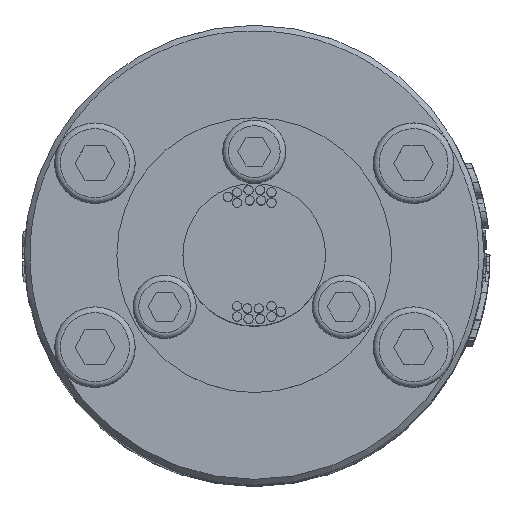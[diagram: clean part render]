
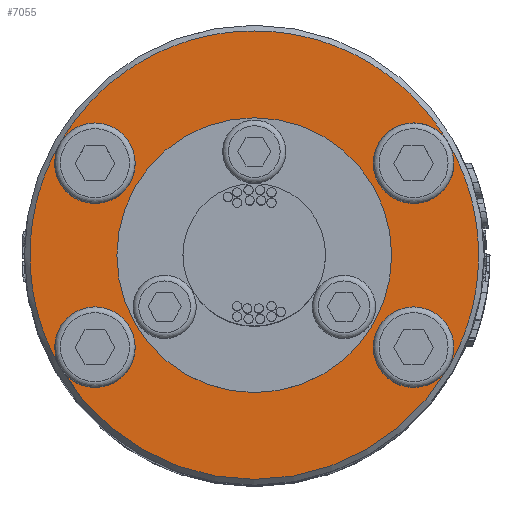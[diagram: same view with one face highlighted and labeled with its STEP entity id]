
A CAD part, top view. The second image highlights one B-rep face of the part: STEP entity #7055.
In plain terms, the highlighted planar face has unit normal (0, 0, 1).
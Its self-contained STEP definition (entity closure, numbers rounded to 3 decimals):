
#4078=PLANE('',#29648);
#7055=ADVANCED_FACE('',(#11076,#11077),#4078,.T.);
#11076=FACE_BOUND('',#12978,.T.);
#11077=FACE_BOUND('',#12979,.T.);
#12978=EDGE_LOOP('',(#21031,#21032,#21033,#21034,#21035,#21036,#21037,#21038));
#12979=EDGE_LOOP('',(#21039));
#21031=ORIENTED_EDGE('',*,*,#27994,.T.);
#21032=ORIENTED_EDGE('',*,*,#27915,.F.);
#21033=ORIENTED_EDGE('',*,*,#27993,.T.);
#21034=ORIENTED_EDGE('',*,*,#27978,.F.);
#21035=ORIENTED_EDGE('',*,*,#27992,.T.);
#21036=ORIENTED_EDGE('',*,*,#27957,.F.);
#21037=ORIENTED_EDGE('',*,*,#27995,.T.);
#21038=ORIENTED_EDGE('',*,*,#27936,.F.);
#21039=ORIENTED_EDGE('',*,*,#27897,.F.);
#23871=VERTEX_POINT('',#58701);
#23889=VERTEX_POINT('',#58757);
#23904=VERTEX_POINT('',#58803);
#23919=VERTEX_POINT('',#58849);
#23934=VERTEX_POINT('',#58895);
#27897=EDGE_CURVE('',#23871,#23871,#28366,.T.);
#27915=EDGE_CURVE('',#23889,#23889,#28378,.T.);
#27936=EDGE_CURVE('',#23904,#23904,#28381,.T.);
#27957=EDGE_CURVE('',#23919,#23919,#28384,.T.);
#27978=EDGE_CURVE('',#23934,#23934,#28387,.T.);
#27992=EDGE_CURVE('',#23934,#23919,#28389,.T.);
#27993=EDGE_CURVE('',#23889,#23934,#28390,.T.);
#27994=EDGE_CURVE('',#23904,#23889,#28391,.T.);
#27995=EDGE_CURVE('',#23919,#23904,#28392,.T.);
#28366=CIRCLE('',#29558,11.95);
#28378=CIRCLE('',#29590,3.5);
#28381=CIRCLE('',#29603,3.5);
#28384=CIRCLE('',#29616,3.5);
#28387=CIRCLE('',#29629,3.5);
#28389=CIRCLE('',#29641,19.5);
#28390=CIRCLE('',#29642,19.5);
#28391=CIRCLE('',#29643,19.5);
#28392=CIRCLE('',#29644,19.5);
#29558=AXIS2_PLACEMENT_3D('',#58700,#33457,#33458);
#29590=AXIS2_PLACEMENT_3D('',#58756,#33527,#33528);
#29603=AXIS2_PLACEMENT_3D('',#58802,#33571,#33572);
#29616=AXIS2_PLACEMENT_3D('',#58848,#33615,#33616);
#29629=AXIS2_PLACEMENT_3D('',#58894,#33659,#33660);
#29641=AXIS2_PLACEMENT_3D('',#58926,#33695,#33696);
#29642=AXIS2_PLACEMENT_3D('',#58927,#33697,#33698);
#29643=AXIS2_PLACEMENT_3D('',#58928,#33699,#33700);
#29644=AXIS2_PLACEMENT_3D('',#58929,#33701,#33702);
#29648=AXIS2_PLACEMENT_3D('',#58934,#33709,#33710);
#33457=DIRECTION('',(0.,0.,1.));
#33458=DIRECTION('',(0.,1.,0.));
#33527=DIRECTION('',(0.,0.,1.));
#33528=DIRECTION('',(1.,0.,0.));
#33571=DIRECTION('',(0.,0.,1.));
#33572=DIRECTION('',(1.,0.,0.));
#33615=DIRECTION('',(0.,0.,1.));
#33616=DIRECTION('',(1.,0.,0.));
#33659=DIRECTION('',(0.,0.,1.));
#33660=DIRECTION('',(1.,0.,0.));
#33695=DIRECTION('',(0.,0.,1.));
#33696=DIRECTION('',(1.,0.,0.));
#33697=DIRECTION('',(0.,0.,1.));
#33698=DIRECTION('',(1.,0.,0.));
#33699=DIRECTION('',(0.,0.,1.));
#33700=DIRECTION('',(1.,0.,0.));
#33701=DIRECTION('',(0.,0.,1.));
#33702=DIRECTION('',(1.,0.,0.));
#33709=DIRECTION('',(0.,0.,1.));
#33710=DIRECTION('',(1.,0.,0.));
#58700=CARTESIAN_POINT('',(0.,0.,94.));
#58701=CARTESIAN_POINT('',(0.,11.95,94.));
#58756=CARTESIAN_POINT('',(13.856,8.,94.));
#58757=CARTESIAN_POINT('',(16.887,9.75,94.));
#58802=CARTESIAN_POINT('',(13.856,-8.,94.));
#58803=CARTESIAN_POINT('',(16.887,-9.75,94.));
#58848=CARTESIAN_POINT('',(-13.856,-8.,94.));
#58849=CARTESIAN_POINT('',(-16.887,-9.75,94.));
#58894=CARTESIAN_POINT('',(-13.856,8.,94.));
#58895=CARTESIAN_POINT('',(-16.887,9.75,94.));
#58926=CARTESIAN_POINT('',(0.,0.,94.));
#58927=CARTESIAN_POINT('',(0.,0.,94.));
#58928=CARTESIAN_POINT('',(0.,0.,94.));
#58929=CARTESIAN_POINT('',(0.,0.,94.));
#58934=CARTESIAN_POINT('',(0.,0.,94.));
